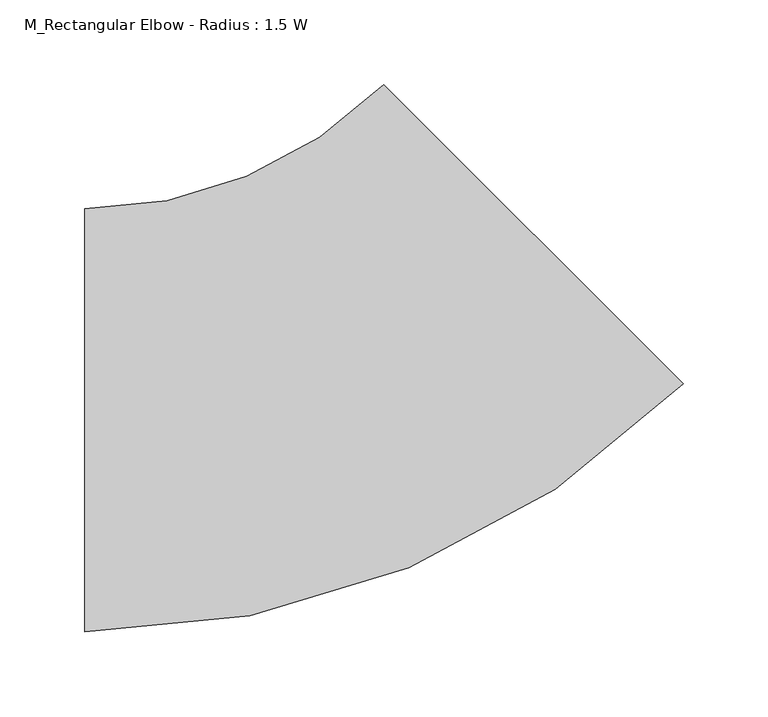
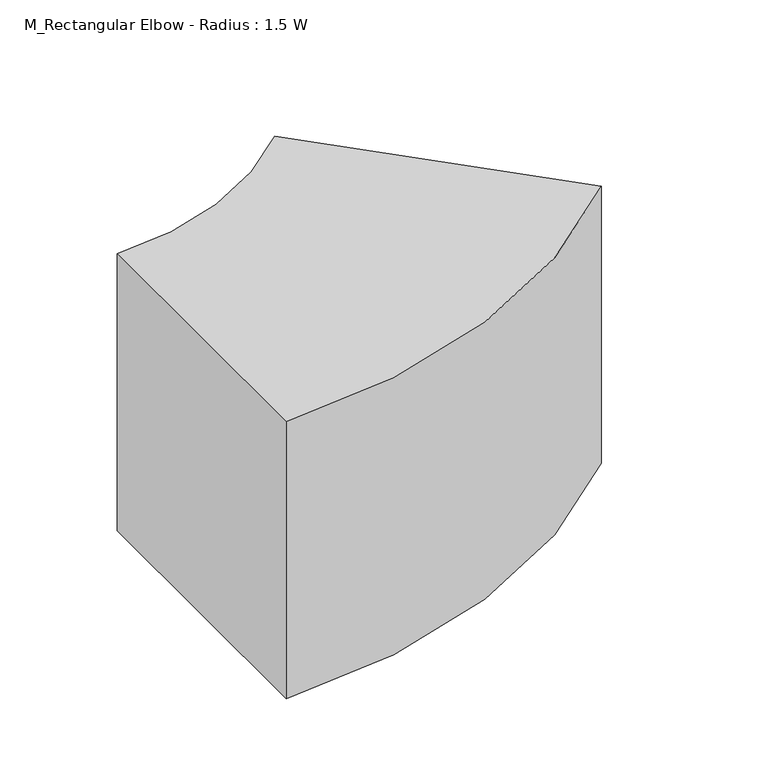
"""IFC4 building model written with IfcOpenShell, lengths in millimetres: duct fitting geometry, M_Rectangular Elbow - Radius : 1.5 W."""

import ifcopenshell
import ifcopenshell.guid

model = None  # the IFC model being written
_history = None  # IfcOwnerHistory: only IFC2X3 demands one
_inside = {}  # id of a spatial element -> (the spatial element, [elements in it])
_under = {}  # id of a project, library or spatial element -> (it, [spatial elements below it])
_declared = {}  # id of a project -> (the project, [libraries it declares])
_typed = {}  # id of a type object -> (the type object, [elements of that type])
_made_of = {}  # id of a material, layer set ... -> (it, [elements and type objects made of it])


def new_model(schema):
    """Start an empty IFC model of exactly this schema.

    Asked for "IFC4X3", IfcOpenShell would pick the latest addendum, in which some entities
    have other attributes; the version numbers below select the first issue.
    IFC2X3 requires an IfcOwnerHistory on every rooted entity: one is made here for all.
    """
    global model, _history
    if schema == "IFC4X3":
        model = ifcopenshell.file(schema_version=(4, 3, 0, 0))
    else:
        model = ifcopenshell.file(schema=schema)
    _inside.clear()
    _under.clear()
    _declared.clear()
    _typed.clear()
    _made_of.clear()
    _history = None
    if model.schema == "IFC2X3":
        org = make("IfcOrganization", Name="unknown")
        user = make(
            "IfcPersonAndOrganization",
            ThePerson=make("IfcPerson", FamilyName="unknown"),
            TheOrganization=org,
        )
        app = make(
            "IfcApplication",
            ApplicationDeveloper=org,
            Version="unknown",
            ApplicationFullName="unknown",
            ApplicationIdentifier="unknown",
        )
        _history = make(
            "IfcOwnerHistory",
            OwningUser=user,
            OwningApplication=app,
            ChangeAction="ADDED",
            CreationDate=0,
        )
    return model


def make(cls, **values):
    """One entity of the class cls with the attributes given. An attribute that is None is left unset."""
    return model.create_entity(
        cls, **{name: value for name, value in values.items() if value is not None}
    )


def rooted(cls, **values):
    """An entity with a GlobalId (a new one), such as an element, a storey or a relation."""
    return make(cls, GlobalId=ifcopenshell.guid.new(), OwnerHistory=_history, **values)


def si_unit(unit_type, name, prefix=None):
    """IfcSIUnit, for example si_unit("LENGTHUNIT", "METRE", prefix="MILLI")."""
    return make("IfcSIUnit", UnitType=unit_type, Prefix=prefix, Name=name)


def assignment(units):
    """IfcUnitAssignment: the units of a project."""
    return None if units is None else make("IfcUnitAssignment", Units=units)


def point(xyz):
    """IfcCartesianPoint."""
    return None if xyz is None else make("IfcCartesianPoint", Coordinates=xyz)


def direction(xyz):
    """IfcDirection."""
    return None if xyz is None else make("IfcDirection", DirectionRatios=xyz)


def frame(location, z_axis=None, x_axis=None):
    """IfcAxis2Placement3D, a coordinate frame: its origin and axes. An axis left out is left unset."""
    return make(
        "IfcAxis2Placement3D",
        Location=point(location),
        Axis=direction(z_axis),
        RefDirection=direction(x_axis),
    )


def frame_2d(location, x_axis=None):
    """IfcAxis2Placement2D, a coordinate frame in the plane: its origin and x axis."""
    return make(
        "IfcAxis2Placement2D", Location=point(location), RefDirection=direction(x_axis)
    )


def origin():
    """The frame at (0, 0, 0) with its axes left unset."""
    return frame((0.0, 0.0, 0.0))


def place(relative_to, where):
    """IfcLocalPlacement: puts the frame where relative to a parent placement (None: the world)."""
    return make(
        "IfcLocalPlacement", PlacementRelTo=relative_to, RelativePlacement=where
    )


def context(
    kind, dimensions, precision=None, world=None, true_north=None, identifier=None
):
    """IfcGeometricRepresentationContext, for example the 3D "Model" context."""
    return make(
        "IfcGeometricRepresentationContext",
        ContextIdentifier=identifier,
        ContextType=kind,
        CoordinateSpaceDimension=dimensions,
        Precision=precision,
        WorldCoordinateSystem=world,
        TrueNorth=true_north,
    )


def project(units=None, contexts=None):
    """IfcProject with its units and contexts."""
    return rooted(
        "IfcProject",
        Name="project",
        RepresentationContexts=contexts,
        UnitsInContext=assignment(units),
    )


def spatial(cls, under=None, at=None, **own):
    """A site, building, storey or space (cls), placed at a placement, below another one or the project."""
    s = rooted(cls, ObjectPlacement=at, **own)
    if under is not None:
        _under.setdefault(under.id(), (under, []))[1].append(s)
    return s


def polyline(points):
    """IfcPolyline through the points."""
    return make("IfcPolyline", Points=[point(p) for p in points])


def circle_curve(where, radius):
    """IfcCircle in the frame where."""
    return make("IfcCircle", Position=where, Radius=radius)


def trimmed(basis, trim1, trim2, sense, master):
    """IfcTrimmedCurve: the piece of a basis curve between two trims."""
    return make(
        "IfcTrimmedCurve",
        BasisCurve=basis,
        Trim1=trim1,
        Trim2=trim2,
        SenseAgreement=sense,
        MasterRepresentation=master,
    )


def segment(curve, same_sense, transition):
    """IfcCompositeCurveSegment."""
    return make(
        "IfcCompositeCurveSegment",
        Transition=transition,
        SameSense=same_sense,
        ParentCurve=curve,
    )


def composite_curve(segments, self_intersect=None):
    """IfcCompositeCurve: segments joined end to end."""
    return make("IfcCompositeCurve", Segments=segments, SelfIntersect=self_intersect)


def outline(outer, holes=None, kind="AREA"):
    """IfcArbitraryClosedProfileDef: a profile drawn as a closed curve; with holes, ...WithVoids."""
    if holes is None:
        return make("IfcArbitraryClosedProfileDef", ProfileType=kind, OuterCurve=outer)
    return make(
        "IfcArbitraryProfileDefWithVoids",
        ProfileType=kind,
        OuterCurve=outer,
        InnerCurves=holes,
    )


def extrude(swept, where, along, depth):
    """IfcExtrudedAreaSolid: the profile swept, set in the frame where, extruded along a direction by depth."""
    return make(
        "IfcExtrudedAreaSolid",
        SweptArea=swept,
        Position=where,
        ExtrudedDirection=direction(along),
        Depth=depth,
    )


def shape(context_of_items, identifier, shape_type, items):
    """IfcShapeRepresentation: the items that make up one representation, for example the "Body"."""
    return make(
        "IfcShapeRepresentation",
        ContextOfItems=context_of_items,
        RepresentationIdentifier=identifier,
        RepresentationType=shape_type,
        Items=items,
    )


def source(mapping_origin, context_of_items, identifier, shape_type, items):
    """IfcRepresentationMap: a shape defined once, which mapped items show again and again."""
    return make(
        "IfcRepresentationMap",
        MappingOrigin=mapping_origin,
        MappedRepresentation=shape(context_of_items, identifier, shape_type, items),
    )


def transform(
    local_origin,
    x_axis=None,
    y_axis=None,
    z_axis=None,
    scale=None,
    scale2=None,
    scale3=None,
    uniform=True,
):
    """IfcCartesianTransformationOperator3D, or its non-uniform kind. x_axis, y_axis, z_axis: its Axis1, 2, 3."""
    if uniform:
        return make(
            "IfcCartesianTransformationOperator3D",
            Axis1=direction(x_axis),
            Axis2=direction(y_axis),
            LocalOrigin=point(local_origin),
            Scale=scale,
            Axis3=direction(z_axis),
        )
    return make(
        "IfcCartesianTransformationOperator3DnonUniform",
        Axis1=direction(x_axis),
        Axis2=direction(y_axis),
        LocalOrigin=point(local_origin),
        Scale=scale,
        Axis3=direction(z_axis),
        Scale2=scale2,
        Scale3=scale3,
    )


def mapped(mapping_source, mapping_target):
    """IfcMappedItem: shows the shape of a source again, moved by a transform."""
    return make(
        "IfcMappedItem", MappingSource=mapping_source, MappingTarget=mapping_target
    )


def made_of(thing, what):
    """Note that an element or type object is made of a material, layer set ...; save() writes the relation."""
    if what is not None:
        _made_of.setdefault(what.id(), (what, []))[1].append(thing)
    return thing


def element(
    cls,
    number,
    at=None,
    inside=None,
    cuts=None,
    type_object=None,
    material=None,
    context=None,
    identifier="Body",
    shape_type=None,
    held_by="IfcProductDefinitionShape",
    body=None,
    shapes=None,
    **own,
):
    """One element of the class cls, such as IfcWall. Its Tag is "e" and its number.

    at: its placement. inside: the storey or other place that contains it. cuts: it is an
    opening in that element (IfcRelVoidsElement). A single representation is given by context,
    identifier, shape_type and body (its items); several are given by shapes. held_by: the class
    of the entity that holds the representations. save() writes the other relations.
    """
    e = rooted(cls, Tag="e%d" % number, ObjectPlacement=at, **own)
    if body is not None:
        shapes = [shape(context, identifier, shape_type, body)]
    if shapes is not None:
        e.Representation = make(held_by, Representations=shapes)
    if inside is not None:
        _inside.setdefault(inside.id(), (inside, []))[1].append(e)
    if cuts is not None:
        rooted(
            "IfcRelVoidsElement", RelatingBuildingElement=cuts, RelatedOpeningElement=e
        )
    if type_object is not None:
        _typed.setdefault(type_object.id(), (type_object, []))[1].append(e)
    return made_of(e, material)


def aggregate(whole, parts):
    """IfcRelAggregates: a whole, such as a stair, and the parts it consists of."""
    return rooted("IfcRelAggregates", RelatingObject=whole, RelatedObjects=parts)


def save(model, path):
    """Write the relations noted so far, then the file.

    IfcRelAggregates (storeys below a building ...), IfcRelContainedInSpatialStructure (elements
    in a storey), IfcRelDefinesByType, IfcRelAssociatesMaterial and IfcRelDeclares: one each for
    every whole, place, type object, material and project.
    """
    for whole, parts in _under.values():
        aggregate(whole, parts)
    for where, things in _inside.values():
        rooted(
            "IfcRelContainedInSpatialStructure",
            RelatedElements=things,
            RelatingStructure=where,
        )
    for kind, things in _typed.values():
        rooted("IfcRelDefinesByType", RelatedObjects=things, RelatingType=kind)
    for what, things in _made_of.values():
        rooted("IfcRelAssociatesMaterial", RelatedObjects=things, RelatingMaterial=what)
    for by, libraries in _declared.values():
        rooted("IfcRelDeclares", RelatingContext=by, RelatedDefinitions=libraries)
    model.write(path)


def m_rectangular_elbow_radius_1_5_w_95db7921(model_context):
    return source(origin(), model_context, "Body", "SweptSolid", [
        extrude(outline(composite_curve([segment(trimmed(circle_curve(frame_2d((-155.3300859, 375.0)), 500.0), [point((198.2233047, 21.4466094))], [point((-155.3300859, -125.0))], False, "CARTESIAN"), True, "CONTINUOUS"), segment(polyline([(-155.3300859, -125.0), (-155.3300859, 125.0)]), True, "CONTINUOUS"), segment(trimmed(circle_curve(frame_2d((-155.3300859, 375.0)), 250.0), [point((-155.3300859, 125.0))], [point((21.4466094, 198.2233047))], True, "CARTESIAN"), True, "CONTINUOUS"), segment(polyline([(21.4466094, 198.2233047), (198.2233047, 21.4466094)]), True, "CONTINUOUS")], self_intersect=False)), frame((0.0, 0.0, -125.0), z_axis=(0.0, 0.0, 1.0), x_axis=(1.0, 0.0, 0.0)), (0.0, 0.0, 1.0), 250.0),
        extrude(outline(composite_curve([segment(trimmed(circle_curve(frame_2d((-155.3300859, 375.0)), 500.0), [point((198.2233047, 21.4466094))], [point((-155.3300859, -125.0))], False, "CARTESIAN"), True, "CONTINUOUS"), segment(polyline([(-155.3300859, -125.0), (-155.3300859, 125.0)]), True, "CONTINUOUS"), segment(trimmed(circle_curve(frame_2d((-155.3300859, 375.0)), 250.0), [point((-155.3300859, 125.0))], [point((21.4466094, 198.2233047))], True, "CARTESIAN"), True, "CONTINUOUS"), segment(polyline([(21.4466094, 198.2233047), (198.2233047, 21.4466094)]), True, "CONTINUOUS")], self_intersect=False)), frame((0.0, 0.0, -125.0), z_axis=(0.0, 0.0, 1.0), x_axis=(1.0, 0.0, 0.0)), (0.0, 0.0, 1.0), 250.0),
        extrude(outline(composite_curve([segment(trimmed(circle_curve(frame_2d((-155.3300859, 375.0)), 500.0), [point((198.2233047, 21.4466094))], [point((-155.3300859, -125.0))], False, "CARTESIAN"), True, "CONTINUOUS"), segment(polyline([(-155.3300859, -125.0), (-155.3300859, 125.0)]), True, "CONTINUOUS"), segment(trimmed(circle_curve(frame_2d((-155.3300859, 375.0)), 250.0), [point((-155.3300859, 125.0))], [point((21.4466094, 198.2233047))], True, "CARTESIAN"), True, "CONTINUOUS"), segment(polyline([(21.4466094, 198.2233047), (198.2233047, 21.4466094)]), True, "CONTINUOUS")], self_intersect=False)), frame((0.0, 0.0, -125.0), z_axis=(0.0, 0.0, 1.0), x_axis=(1.0, 0.0, 0.0)), (0.0, 0.0, 1.0), 250.0),
    ])


if __name__ == "__main__":
    model = new_model("IFC4")
    model_context = context("Model", 3, world=origin())
    ifc_project = project(units=[si_unit("LENGTHUNIT", "METRE", prefix="MILLI")], contexts=[model_context])
    site = spatial("IfcSite", under=ifc_project)
    building = spatial("IfcBuilding", under=site)
    placement = place(None, origin())
    m_rectangular_elbow_radius_1_5_w_shape = m_rectangular_elbow_radius_1_5_w_95db7921(model_context)
    element("IfcDuctFitting", 1, ObjectType="M_Rectangular Elbow - Radius : 1.5 W", at=placement, inside=building, context=model_context, shape_type="MappedRepresentation", body=[
        mapped(m_rectangular_elbow_radius_1_5_w_shape, transform((0.0, 0.0, 0.0), x_axis=(1.0, 0.0, 0.0), y_axis=(0.0, 1.0, 0.0), z_axis=(0.0, 0.0, 1.0))),
    ])
    save(model, "model.ifc")
